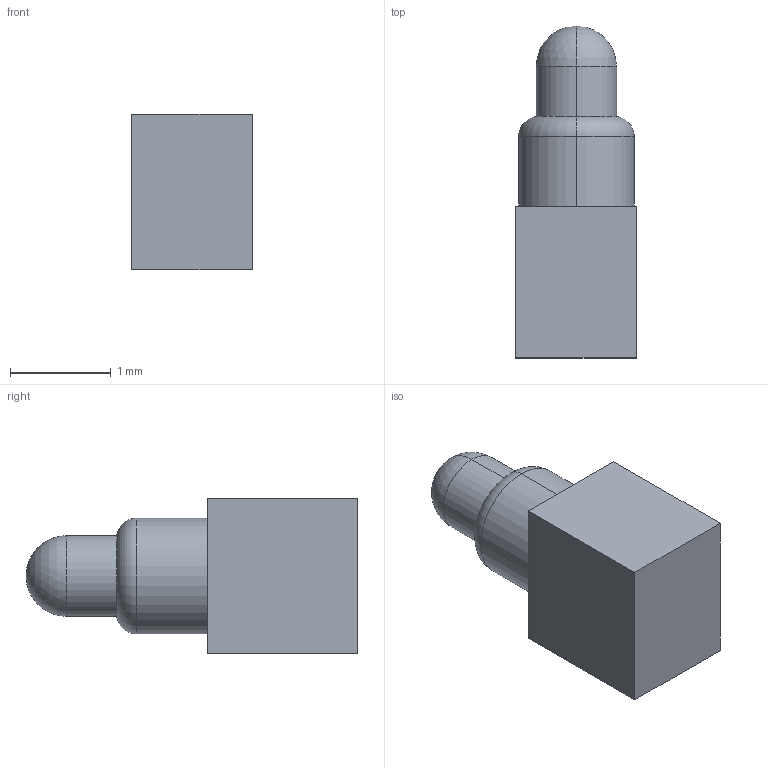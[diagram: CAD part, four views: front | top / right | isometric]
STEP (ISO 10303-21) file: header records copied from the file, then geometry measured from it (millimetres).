
FILE_DESCRIPTION((''),'2;1');
FILE_NAME('PRT0005','2023-06-01T14:50:39',('USER'),(''),'CREO PARAMETRIC BY PTC INC, 2020154','CREO PARAMETRIC BY PTC INC, 2020154','');
FILE_SCHEMA(('CONFIG_CONTROL_DESIGN'));
Length unit declared in the file: millimetre
Products named in the file (1): PRT0005
Bounding box: 1.2 x 3.3 x 1.55 mm (x, y, z)
Volume: 4.1 mm3; surface area: 16.7 mm2
Topology: 1 solids, 1 shells, 18 faces, 42 edges, 25 vertices
Faces by surface type: plane 8, cylinder 6, torus 2, sphere 2
Entity records: 538 total; most frequent: DIRECTION 92, CARTESIAN_POINT 83, ORIENTED_EDGE 80, EDGE_CURVE 40, AXIS2_PLACEMENT_3D 34, VERTEX_POINT 25, VECTOR 24, LINE 24
